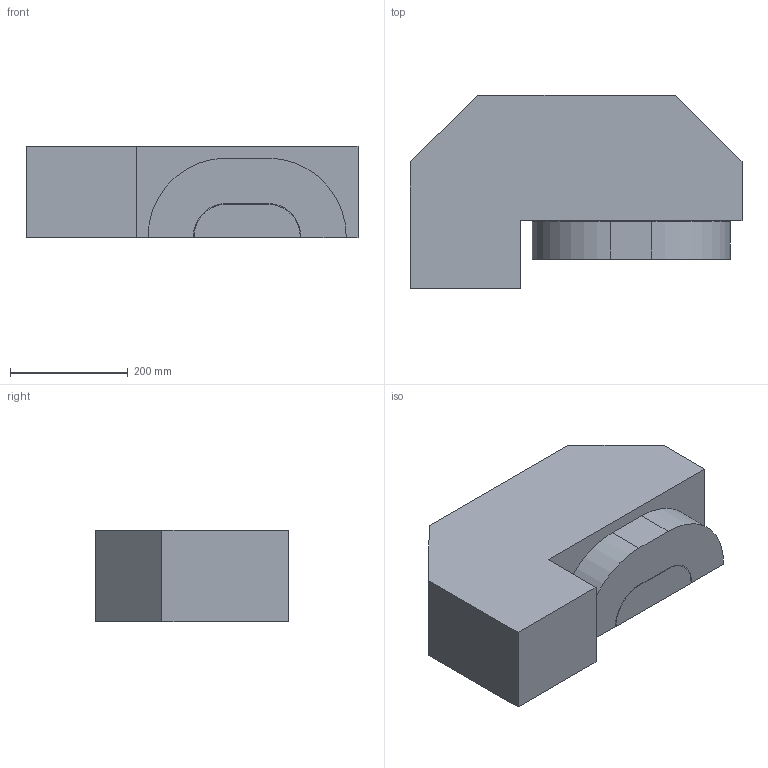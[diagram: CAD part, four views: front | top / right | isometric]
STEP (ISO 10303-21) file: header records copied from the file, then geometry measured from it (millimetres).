
FILE_DESCRIPTION(('STEP AP214'),'1');
FILE_NAME('ALS_Superbend_step.step','2021-08-11T18:54:15',(' '),(' '),'Spatial InterOp 3D',' ',' ');
FILE_SCHEMA(('AUTOMOTIVE_DESIGN { 1 0 10303 214 1 1 1 1 }'));
Length unit declared in the file: millimetre
Products named in the file (1): BodyCore
Bounding box: 563 x 328 x 155 mm (x, y, z)
Volume: 22334217 mm3; surface area: 672792.9 mm2
Topology: 3 solids, 3 shells, 32 faces, 78 edges, 52 vertices
Faces by surface type: plane 26, cylinder 6
Entity records: 957 total; most frequent: CARTESIAN_POINT 165, DIRECTION 160, ORIENTED_EDGE 156, EDGE_CURVE 78, LINE 66, VECTOR 66, VERTEX_POINT 52, AXIS2_PLACEMENT_3D 47
